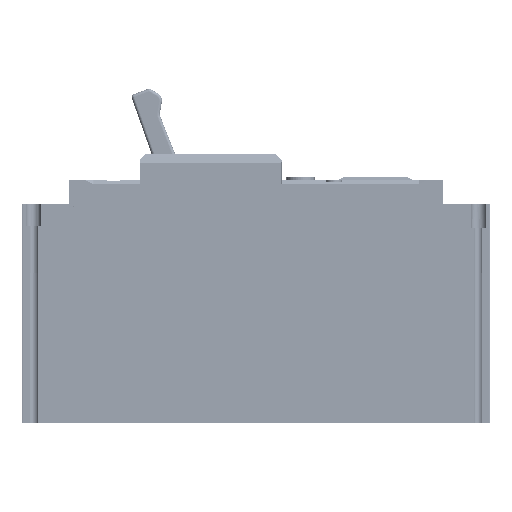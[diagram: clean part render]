
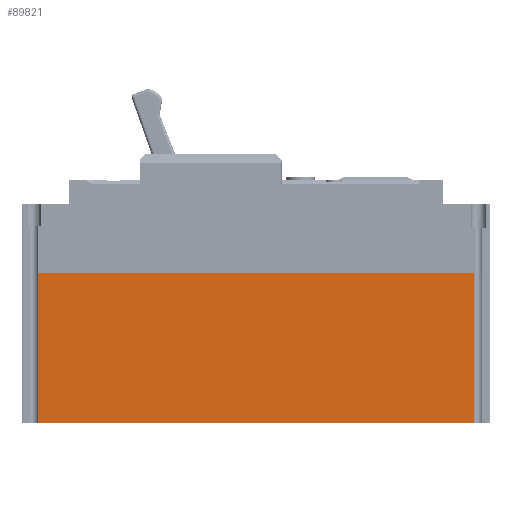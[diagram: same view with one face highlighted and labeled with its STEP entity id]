
A CAD part, left-side view. The second image highlights one B-rep face of the part: STEP entity #89821.
In plain terms, the highlighted planar face has unit normal (-1, 0, 0).
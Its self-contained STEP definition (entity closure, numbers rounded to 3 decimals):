
#8514 = CARTESIAN_POINT ( 'NONE',  ( 0., -5.75, 0. ) ) ;
#9891 = EDGE_CURVE ( 'NONE', #247804, #206351, #120950, .T. ) ;
#18927 = DIRECTION ( 'NONE',  ( -1., 0., 0. ) ) ;
#22234 = FACE_OUTER_BOUND ( 'NONE', #128988, .T. ) ;
#39820 = AXIS2_PLACEMENT_3D ( 'NONE', #228573, #18927, #72544 ) ;
#66271 = ORIENTED_EDGE ( 'NONE', *, *, #9891, .F. ) ;
#72544 = DIRECTION ( 'NONE',  ( 0., 1., 0. ) ) ;
#89473 = EDGE_CURVE ( 'NONE', #304828, #147774, #255823, .T. ) ;
#89821 = ADVANCED_FACE ( 'NONE', ( #22234 ), #327679, .T. ) ;
#94125 = DIRECTION ( 'NONE',  ( 0., 1., 0. ) ) ;
#109252 = VECTOR ( 'NONE', #129878, 1000. ) ;
#120950 = LINE ( 'NONE', #199858, #139832 ) ;
#123358 = CARTESIAN_POINT ( 'NONE',  ( 0., -159.25, 0. ) ) ;
#124465 = DIRECTION ( 'NONE',  ( 0., 0., 1. ) ) ;
#126242 = ORIENTED_EDGE ( 'NONE', *, *, #179345, .T. ) ;
#128988 = EDGE_LOOP ( 'NONE', ( #66271, #126242, #319295, #172580 ) ) ;
#129878 = DIRECTION ( 'NONE',  ( 0., -1., 0. ) ) ;
#139832 = VECTOR ( 'NONE', #94125, 1000. ) ;
#143408 = LINE ( 'NONE', #292839, #296088 ) ;
#147774 = VERTEX_POINT ( 'NONE', #171755 ) ;
#168749 = EDGE_CURVE ( 'NONE', #206351, #304828, #143408, .T. ) ;
#171755 = CARTESIAN_POINT ( 'NONE',  ( 0., -159.25, 53. ) ) ;
#172580 = ORIENTED_EDGE ( 'NONE', *, *, #168749, .F. ) ;
#179345 = EDGE_CURVE ( 'NONE', #247804, #147774, #289171, .T. ) ;
#191806 = CARTESIAN_POINT ( 'NONE',  ( 0., -159.25, 0. ) ) ;
#199858 = CARTESIAN_POINT ( 'NONE',  ( 0., -165., 0. ) ) ;
#206351 = VERTEX_POINT ( 'NONE', #8514 ) ;
#215321 = DIRECTION ( 'NONE',  ( 0., 0., 1. ) ) ;
#228573 = CARTESIAN_POINT ( 'NONE',  ( 0., -165., 53. ) ) ;
#230620 = CARTESIAN_POINT ( 'NONE',  ( 0., -165., 53. ) ) ;
#247804 = VERTEX_POINT ( 'NONE', #123358 ) ;
#255823 = LINE ( 'NONE', #230620, #109252 ) ;
#271107 = CARTESIAN_POINT ( 'NONE',  ( 0., -5.75, 53. ) ) ;
#289171 = LINE ( 'NONE', #191806, #292885 ) ;
#292839 = CARTESIAN_POINT ( 'NONE',  ( 0., -5.75, 0. ) ) ;
#292885 = VECTOR ( 'NONE', #215321, 1000. ) ;
#296088 = VECTOR ( 'NONE', #124465, 1000. ) ;
#304828 = VERTEX_POINT ( 'NONE', #271107 ) ;
#319295 = ORIENTED_EDGE ( 'NONE', *, *, #89473, .F. ) ;
#327679 = PLANE ( 'NONE',  #39820 ) ;
